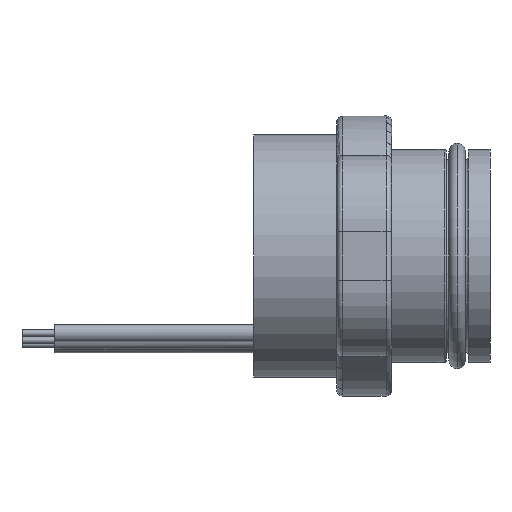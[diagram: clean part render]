
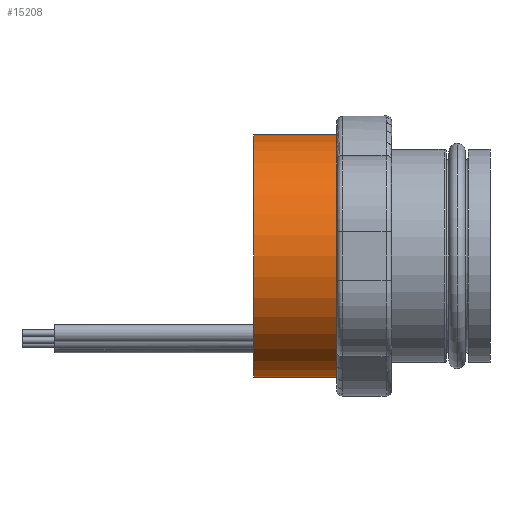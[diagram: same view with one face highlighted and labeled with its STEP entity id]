
A CAD part, left-side view. The second image highlights one B-rep face of the part: STEP entity #15208.
In plain terms, the highlighted cylindrical face has radius 11.1 mm (diameter 22.2 mm), a partial arc.
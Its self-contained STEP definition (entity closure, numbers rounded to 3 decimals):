
#4591 = ORIENTED_EDGE ( 'NONE', *, *, #19595, .F. ) ;
#6231 = DIRECTION ( 'NONE',  ( 0., -1., 0. ) ) ;
#6434 = EDGE_CURVE ( 'NONE', #19661, #35976, #12374, .T. ) ;
#6510 = DIRECTION ( 'NONE',  ( 0., -1., 0. ) ) ;
#7147 = VERTEX_POINT ( 'NONE', #27822 ) ;
#7569 = DIRECTION ( 'NONE',  ( 0., 0., -1. ) ) ;
#8776 = EDGE_CURVE ( 'NONE', #7147, #35976, #20948, .T. ) ;
#10267 = CIRCLE ( 'NONE', #31903, 11.1 ) ;
#10450 = CYLINDRICAL_SURFACE ( 'NONE', #27433, 11.1 ) ;
#10719 = CARTESIAN_POINT ( 'NONE',  ( 0., 5., 0. ) ) ;
#11357 = DIRECTION ( 'NONE',  ( 0., 1., 0. ) ) ;
#12374 = CIRCLE ( 'NONE', #33969, 11.1 ) ;
#12492 = EDGE_LOOP ( 'NONE', ( #4591, #21294, #34721, #29383 ) ) ;
#12699 = VECTOR ( 'NONE', #6231, 1000. ) ;
#15208 = ADVANCED_FACE ( 'NONE', ( #36950 ), #10450, .T. ) ;
#15615 = VERTEX_POINT ( 'NONE', #24728 ) ;
#19595 = EDGE_CURVE ( 'NONE', #15615, #19661, #21234, .T. ) ;
#19661 = VERTEX_POINT ( 'NONE', #30493 ) ;
#19705 = CARTESIAN_POINT ( 'NONE',  ( 0., 5., -11.1 ) ) ;
#20948 = LINE ( 'NONE', #32738, #12699 ) ;
#21234 = LINE ( 'NONE', #33021, #36378 ) ;
#21294 = ORIENTED_EDGE ( 'NONE', *, *, #36041, .F. ) ;
#22265 = CARTESIAN_POINT ( 'NONE',  ( 0., 12.6, 0. ) ) ;
#22531 = DIRECTION ( 'NONE',  ( 0., -1., 0. ) ) ;
#23160 = DIRECTION ( 'NONE',  ( 0., 0., 1. ) ) ;
#24728 = CARTESIAN_POINT ( 'NONE',  ( 0., 12.6, 11.1 ) ) ;
#27433 = AXIS2_PLACEMENT_3D ( 'NONE', #22265, #34059, #7569 ) ;
#27822 = CARTESIAN_POINT ( 'NONE',  ( 0., 12.6, -11.1 ) ) ;
#29383 = ORIENTED_EDGE ( 'NONE', *, *, #6434, .F. ) ;
#30493 = CARTESIAN_POINT ( 'NONE',  ( 0., 5., 11.1 ) ) ;
#31903 = AXIS2_PLACEMENT_3D ( 'NONE', #37872, #11357, #23160 ) ;
#32738 = CARTESIAN_POINT ( 'NONE',  ( 0., 12.6, -11.1 ) ) ;
#33021 = CARTESIAN_POINT ( 'NONE',  ( 0., 12.6, 11.1 ) ) ;
#33969 = AXIS2_PLACEMENT_3D ( 'NONE', #10719, #22531, #34318 ) ;
#34059 = DIRECTION ( 'NONE',  ( 0., -1., 0. ) ) ;
#34318 = DIRECTION ( 'NONE',  ( 0., 0., -1. ) ) ;
#34721 = ORIENTED_EDGE ( 'NONE', *, *, #8776, .T. ) ;
#35976 = VERTEX_POINT ( 'NONE', #19705 ) ;
#36041 = EDGE_CURVE ( 'NONE', #7147, #15615, #10267, .T. ) ;
#36378 = VECTOR ( 'NONE', #6510, 1000. ) ;
#36950 = FACE_OUTER_BOUND ( 'NONE', #12492, .T. ) ;
#37872 = CARTESIAN_POINT ( 'NONE',  ( 0., 12.6, 0. ) ) ;
